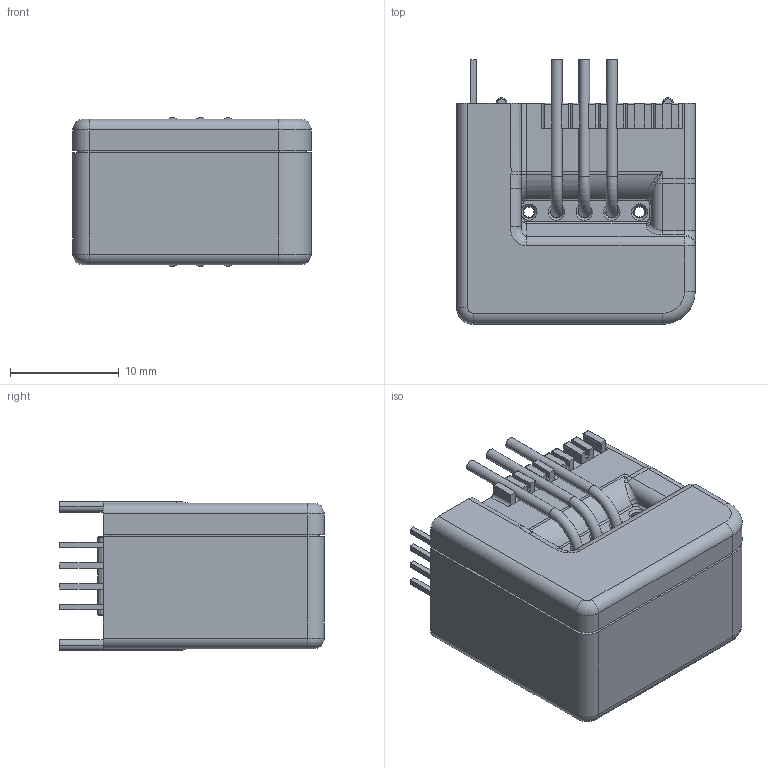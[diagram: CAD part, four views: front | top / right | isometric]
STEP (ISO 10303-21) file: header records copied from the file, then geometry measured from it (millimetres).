
FILE_DESCRIPTION(('Creo Elements/Direct Modeling STEP Export'),'2;1');
FILE_NAME('LESR.stp','2017-03-23T 9:30:28',(''),(''),'PTC Creo Elements/Direct Modeling STEP processor for AP214 (Solid Model)','PTC Creo Elements/Direct Modeling 19.0B 21-Mar-2015 (C) Parametric Technology GmbH','');
FILE_SCHEMA(('AUTOMOTIVE_DESIGN { 1 0 10303 214 1 1 1 1 }'));
Length unit declared in the file: millimetre
Products named in the file (2): BBox_Outline_C
Assembly tree (1 placements, depth 2):
  BBox_Outline_C
    BBox_Outline_C
Bounding box: 21.92 x 24.3 x 13.7 mm (x, y, z)
Volume: 5426 mm3; surface area: 2670.9 mm2
Topology: 1 solids, 1 shells, 648 faces, 1814 edges, 1169 vertices
Faces by surface type: plane 359, cylinder 185, bspline 39, torus 31, cone 28, extrusion 4, sphere 2
Entity records: 33287 total; most frequent: CARTESIAN_POINT 17523, ORIENTED_EDGE 3628, DIRECTION 2796, EDGE_CURVE 1810, VERTEX_POINT 1169, VECTOR 1120, LINE 1116, AXIS2_PLACEMENT_3D 838
